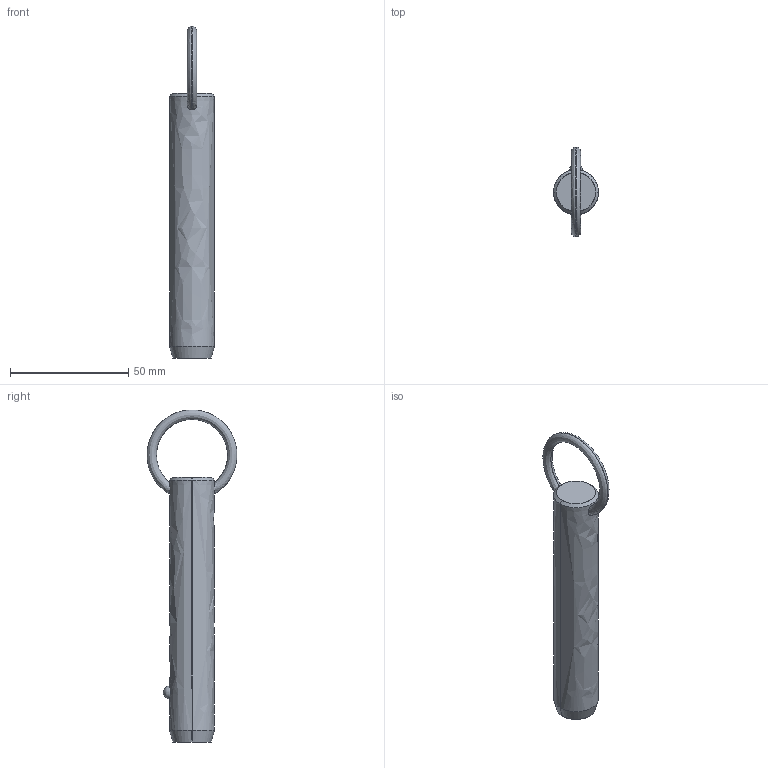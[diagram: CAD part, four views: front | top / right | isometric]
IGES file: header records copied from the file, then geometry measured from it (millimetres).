
Start section: SolidWorks IGES file using analytic representation for surfaces
Global section: file name: C:\Users\liam_\OneDrive\Documents\WORK\Work for WixRoyd\Job Files\J-00019 - Matt Davis CAD Checking\04. CAD Drawings\automotion20190605\P1250.2_v2\P1250.2_v2_20190729_IGES\P1250.075-310.igs; native system: SolidWorks 2017; preprocessor: SolidWorks 2017; author: liam_; date: 190729.235144; units: millimetre
Bounding box: 19 x 38.1 x 140.6 mm (x, y, z)
Surface area: 8218.1 mm2 (no closed solid volume)
Topology: 0 solids, 0 shells, 12 faces, 294 edges, 292 vertices
Faces by surface type: revolution 8, bspline 4
